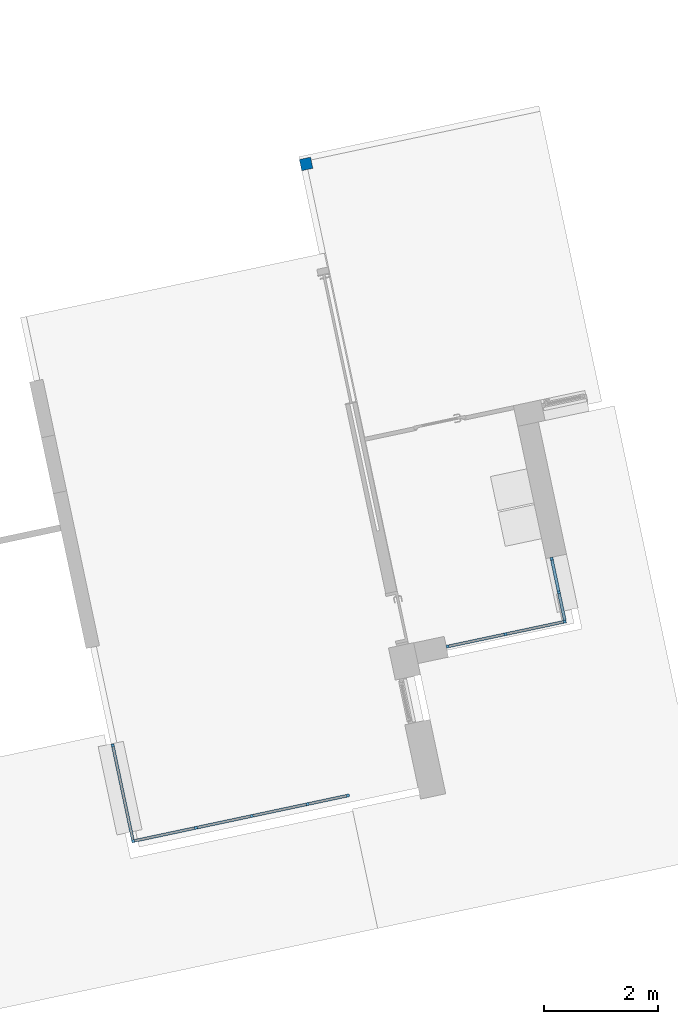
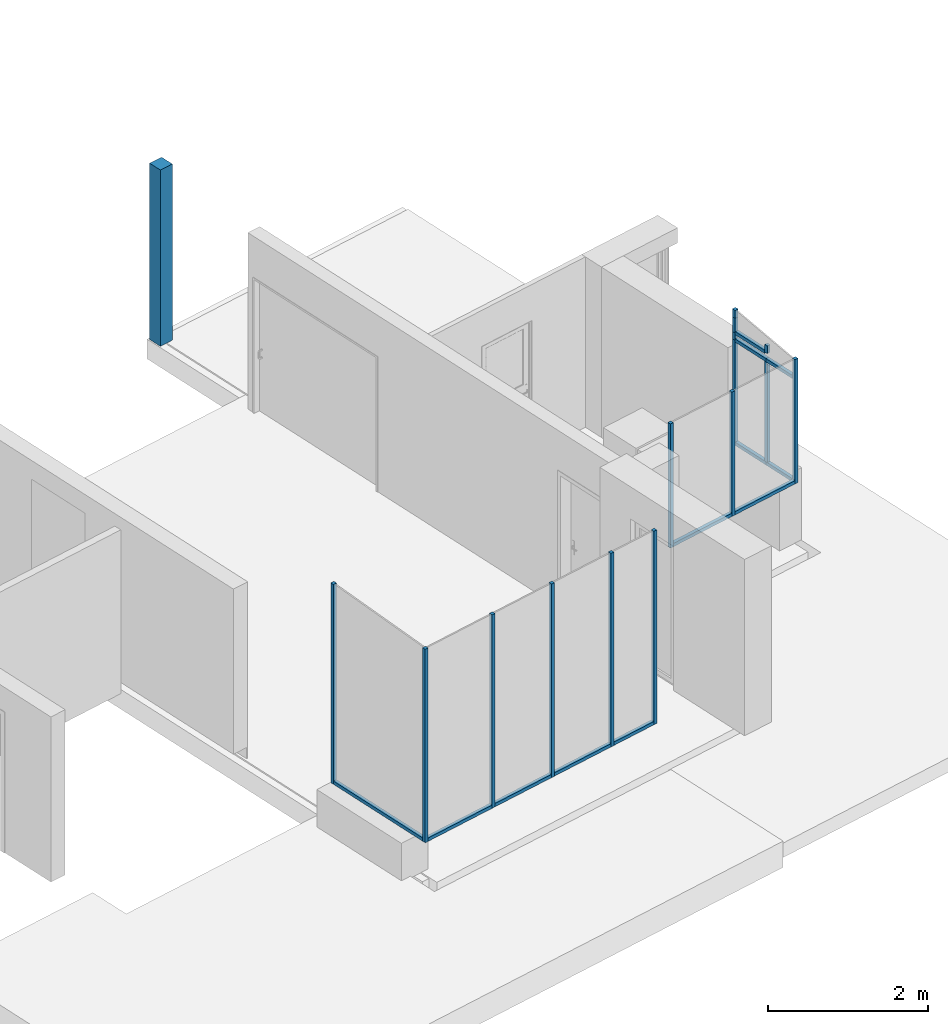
# One storey, part 1 of 17: 26 members, 1 column, 4 elements without a shape of their own.
"""IFC2X3 building model written with IfcOpenShell, lengths in centimetres."""

import ifcopenshell
import ifcopenshell.guid

model = None  # the IFC model being written
_history = None  # IfcOwnerHistory: only IFC2X3 demands one
_inside = {}  # id of a spatial element -> (the spatial element, [elements in it])
_under = {}  # id of a project, library or spatial element -> (it, [spatial elements below it])
_declared = {}  # id of a project -> (the project, [libraries it declares])
_typed = {}  # id of a type object -> (the type object, [elements of that type])
_made_of = {}  # id of a material, layer set ... -> (it, [elements and type objects made of it])


def new_model(schema):
    """Start an empty IFC model of exactly this schema.

    Asked for "IFC4X3", IfcOpenShell would pick the latest addendum, in which some entities
    have other attributes; the version numbers below select the first issue.
    IFC2X3 requires an IfcOwnerHistory on every rooted entity: one is made here for all.
    """
    global model, _history
    if schema == "IFC4X3":
        model = ifcopenshell.file(schema_version=(4, 3, 0, 0))
    else:
        model = ifcopenshell.file(schema=schema)
    _inside.clear()
    _under.clear()
    _declared.clear()
    _typed.clear()
    _made_of.clear()
    _history = None
    if model.schema == "IFC2X3":
        org = make("IfcOrganization", Name="unknown")
        user = make(
            "IfcPersonAndOrganization",
            ThePerson=make("IfcPerson", FamilyName="unknown"),
            TheOrganization=org,
        )
        app = make(
            "IfcApplication",
            ApplicationDeveloper=org,
            Version="unknown",
            ApplicationFullName="unknown",
            ApplicationIdentifier="unknown",
        )
        _history = make(
            "IfcOwnerHistory",
            OwningUser=user,
            OwningApplication=app,
            ChangeAction="ADDED",
            CreationDate=0,
        )
    return model


def make(cls, **values):
    """One entity of the class cls with the attributes given. An attribute that is None is left unset."""
    return model.create_entity(
        cls, **{name: value for name, value in values.items() if value is not None}
    )


def entity(cls, *values):
    """Any entity or typed value of the class cls, its attributes in the order of the schema. None: left unset."""
    e = model.create_entity(cls)
    for i, value in enumerate(values):
        if value is not None:
            e[i] = value
    return e


def rooted(cls, **values):
    """An entity with a GlobalId (a new one), such as an element, a storey or a relation."""
    return make(cls, GlobalId=ifcopenshell.guid.new(), OwnerHistory=_history, **values)


def si_unit(unit_type, name, prefix=None):
    """IfcSIUnit, for example si_unit("LENGTHUNIT", "METRE", prefix="MILLI")."""
    return make("IfcSIUnit", UnitType=unit_type, Prefix=prefix, Name=name)


def converted_unit(unit_type, name, factor, base, dimensions=None, offset=None):
    """IfcConversionBasedUnit, such as the inch: factor (a typed value) times the base unit."""
    return make(
        "IfcConversionBasedUnit"
        if offset is None
        else "IfcConversionBasedUnitWithOffset",
        ConversionOffset=offset,
        Dimensions=None
        if dimensions is None
        else entity("IfcDimensionalExponents", *dimensions),
        UnitType=unit_type,
        Name=name,
        ConversionFactor=make(
            "IfcMeasureWithUnit", ValueComponent=factor, UnitComponent=base
        ),
    )


def derived_unit(unit_type, elements):
    """IfcDerivedUnit: a product of units, each with its exponent."""
    return make(
        "IfcDerivedUnit",
        Elements=[
            make("IfcDerivedUnitElement", Unit=unit, Exponent=power)
            for unit, power in elements
        ],
        UnitType=unit_type,
    )


def assignment(units):
    """IfcUnitAssignment: the units of a project."""
    return None if units is None else make("IfcUnitAssignment", Units=units)


def point(xyz):
    """IfcCartesianPoint."""
    return None if xyz is None else make("IfcCartesianPoint", Coordinates=xyz)


def direction(xyz):
    """IfcDirection."""
    return None if xyz is None else make("IfcDirection", DirectionRatios=xyz)


def frame(location, z_axis=None, x_axis=None):
    """IfcAxis2Placement3D, a coordinate frame: its origin and axes. An axis left out is left unset."""
    return make(
        "IfcAxis2Placement3D",
        Location=point(location),
        Axis=direction(z_axis),
        RefDirection=direction(x_axis),
    )


def frame_2d(location, x_axis=None):
    """IfcAxis2Placement2D, a coordinate frame in the plane: its origin and x axis."""
    return make(
        "IfcAxis2Placement2D", Location=point(location), RefDirection=direction(x_axis)
    )


def origin():
    """The frame at (0, 0, 0) with its axes left unset."""
    return frame((0.0, 0.0, 0.0))


def origin_2d_with_axis():
    """The frame at (0, 0) in the plane with the x axis (1, 0) written out."""
    return frame_2d((0.0, 0.0), x_axis=(1.0, 0.0))


def place(relative_to, where):
    """IfcLocalPlacement: puts the frame where relative to a parent placement (None: the world)."""
    return make(
        "IfcLocalPlacement", PlacementRelTo=relative_to, RelativePlacement=where
    )


def context(
    kind, dimensions, precision=None, world=None, true_north=None, identifier=None
):
    """IfcGeometricRepresentationContext, for example the 3D "Model" context."""
    return make(
        "IfcGeometricRepresentationContext",
        ContextIdentifier=identifier,
        ContextType=kind,
        CoordinateSpaceDimension=dimensions,
        Precision=precision,
        WorldCoordinateSystem=world,
        TrueNorth=true_north,
    )


def subcontext(parent, identifier, kind, view, scale=None):
    """IfcGeometricRepresentationSubContext, for example "Body" below "Model"."""
    return make(
        "IfcGeometricRepresentationSubContext",
        ContextIdentifier=identifier,
        ContextType=kind,
        ParentContext=parent,
        TargetScale=scale,
        TargetView=view,
    )


def project(units=None, contexts=None):
    """IfcProject with its units and contexts."""
    return rooted(
        "IfcProject",
        Name="project",
        RepresentationContexts=contexts,
        UnitsInContext=assignment(units),
    )


def spatial(cls, under=None, at=None, **own):
    """A site, building, storey or space (cls), placed at a placement, below another one or the project."""
    s = rooted(cls, ObjectPlacement=at, **own)
    if under is not None:
        _under.setdefault(under.id(), (under, []))[1].append(s)
    return s


def profile(cls, at=None, kind="AREA", **sizes):
    """A parametric profile (cls). Its sizes go by their IFC names, for example OverallWidth=200.0."""
    return make(cls, ProfileType=kind, Position=at, **sizes)


def rectangle(**sizes):
    """IfcRectangleProfileDef."""
    return profile("IfcRectangleProfileDef", **sizes)


def extrude(swept, where, along, depth):
    """IfcExtrudedAreaSolid: the profile swept, set in the frame where, extruded along a direction by depth."""
    return make(
        "IfcExtrudedAreaSolid",
        SweptArea=swept,
        Position=where,
        ExtrudedDirection=direction(along),
        Depth=depth,
    )


def shape(context_of_items, identifier, shape_type, items):
    """IfcShapeRepresentation: the items that make up one representation, for example the "Body"."""
    return make(
        "IfcShapeRepresentation",
        ContextOfItems=context_of_items,
        RepresentationIdentifier=identifier,
        RepresentationType=shape_type,
        Items=items,
    )


def source(mapping_origin, context_of_items, identifier, shape_type, items):
    """IfcRepresentationMap: a shape defined once, which mapped items show again and again."""
    return make(
        "IfcRepresentationMap",
        MappingOrigin=mapping_origin,
        MappedRepresentation=shape(context_of_items, identifier, shape_type, items),
    )


def transform(
    local_origin,
    x_axis=None,
    y_axis=None,
    z_axis=None,
    scale=None,
    scale2=None,
    scale3=None,
    uniform=True,
):
    """IfcCartesianTransformationOperator3D, or its non-uniform kind. x_axis, y_axis, z_axis: its Axis1, 2, 3."""
    if uniform:
        return make(
            "IfcCartesianTransformationOperator3D",
            Axis1=direction(x_axis),
            Axis2=direction(y_axis),
            LocalOrigin=point(local_origin),
            Scale=scale,
            Axis3=direction(z_axis),
        )
    return make(
        "IfcCartesianTransformationOperator3DnonUniform",
        Axis1=direction(x_axis),
        Axis2=direction(y_axis),
        LocalOrigin=point(local_origin),
        Scale=scale,
        Axis3=direction(z_axis),
        Scale2=scale2,
        Scale3=scale3,
    )


def mapped(mapping_source, mapping_target):
    """IfcMappedItem: shows the shape of a source again, moved by a transform."""
    return make(
        "IfcMappedItem", MappingSource=mapping_source, MappingTarget=mapping_target
    )


def material(Name=None, Category=None):
    """IfcMaterial."""
    return make("IfcMaterial", Name=Name, Category=Category)


def made_of(thing, what):
    """Note that an element or type object is made of a material, layer set ...; save() writes the relation."""
    if what is not None:
        _made_of.setdefault(what.id(), (what, []))[1].append(thing)
    return thing


def type_object(cls, material=None, **own):
    """A type object (cls), such as IfcWallType, which elements share."""
    return made_of(rooted(cls, **own), material)


def type_shapes(of_type, sources):
    """Give a type object the sources (RepresentationMaps) that its elements show as mapped items."""
    of_type.RepresentationMaps = sources


def element(
    cls,
    number,
    at=None,
    inside=None,
    cuts=None,
    type_object=None,
    material=None,
    context=None,
    identifier="Body",
    shape_type=None,
    held_by="IfcProductDefinitionShape",
    body=None,
    shapes=None,
    **own,
):
    """One element of the class cls, such as IfcWall. Its Tag is "e" and its number.

    at: its placement. inside: the storey or other place that contains it. cuts: it is an
    opening in that element (IfcRelVoidsElement). A single representation is given by context,
    identifier, shape_type and body (its items); several are given by shapes. held_by: the class
    of the entity that holds the representations. save() writes the other relations.
    """
    e = rooted(cls, Tag="e%d" % number, ObjectPlacement=at, **own)
    if body is not None:
        shapes = [shape(context, identifier, shape_type, body)]
    if shapes is not None:
        e.Representation = make(held_by, Representations=shapes)
    if inside is not None:
        _inside.setdefault(inside.id(), (inside, []))[1].append(e)
    if cuts is not None:
        rooted(
            "IfcRelVoidsElement", RelatingBuildingElement=cuts, RelatedOpeningElement=e
        )
    if type_object is not None:
        _typed.setdefault(type_object.id(), (type_object, []))[1].append(e)
    return made_of(e, material)


def aggregate(whole, parts):
    """IfcRelAggregates: a whole, such as a stair, and the parts it consists of."""
    return rooted("IfcRelAggregates", RelatingObject=whole, RelatedObjects=parts)


def save(model, path):
    """Write the relations noted so far, then the file.

    IfcRelAggregates (storeys below a building ...), IfcRelContainedInSpatialStructure (elements
    in a storey), IfcRelDefinesByType, IfcRelAssociatesMaterial and IfcRelDeclares: one each for
    every whole, place, type object, material and project.
    """
    for whole, parts in _under.values():
        aggregate(whole, parts)
    for where, things in _inside.values():
        rooted(
            "IfcRelContainedInSpatialStructure",
            RelatedElements=things,
            RelatingStructure=where,
        )
    for kind, things in _typed.values():
        rooted("IfcRelDefinesByType", RelatedObjects=things, RelatingType=kind)
    for what, things in _made_of.values():
        rooted("IfcRelAssociatesMaterial", RelatedObjects=things, RelatingMaterial=what)
    for by, libraries in _declared.values():
        rooted("IfcRelDeclares", RelatingContext=by, RelatedDefinitions=libraries)
    model.write(path)


model = new_model("IFC2X3")

# Units and contexts
model_context = context("Model", 3, precision=0.001, world=origin(), true_north=direction((6.12303176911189e-17, 1.0)))
body_context = subcontext(model_context, "Body", "Model", "MODEL_VIEW")
ifc_project = project(units=[si_unit("LENGTHUNIT", "METRE", prefix="CENTI"), si_unit("AREAUNIT", "SQUARE_METRE"), si_unit("VOLUMEUNIT", "CUBIC_METRE"), converted_unit("PLANEANGLEUNIT", "DEGREE", entity("IfcRatioMeasure", 0.0174532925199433), si_unit("PLANEANGLEUNIT", "RADIAN"), dimensions=[0, 0, 0, 0, 0, 0, 0]), si_unit("MASSUNIT", "GRAM", prefix="KILO"), derived_unit("MASSDENSITYUNIT", [(si_unit("MASSUNIT", "GRAM", prefix="KILO"), 1), (si_unit("LENGTHUNIT", "METRE"), -3)]), derived_unit("IONCONCENTRATIONUNIT", [(si_unit("MASSUNIT", "GRAM", prefix="KILO"), 1), (si_unit("LENGTHUNIT", "METRE"), -3)]), derived_unit("MOMENTOFINERTIAUNIT", [(si_unit("LENGTHUNIT", "METRE"), 4)]), si_unit("TIMEUNIT", "SECOND"), si_unit("FREQUENCYUNIT", "HERTZ"), si_unit("THERMODYNAMICTEMPERATUREUNIT", "DEGREE_CELSIUS"), derived_unit("THERMALTRANSMITTANCEUNIT", [(si_unit("MASSUNIT", "GRAM", prefix="KILO"), 1), (si_unit("THERMODYNAMICTEMPERATUREUNIT", "KELVIN"), -1), (si_unit("TIMEUNIT", "SECOND"), -3)]), derived_unit("THERMALCONDUCTANCEUNIT", [(si_unit("MASSUNIT", "GRAM", prefix="KILO"), 1), (si_unit("THERMODYNAMICTEMPERATUREUNIT", "KELVIN"), -1), (si_unit("TIMEUNIT", "SECOND"), -3), (si_unit("LENGTHUNIT", "METRE"), 1)]), derived_unit("VOLUMETRICFLOWRATEUNIT", [(si_unit("LENGTHUNIT", "METRE"), 3), (si_unit("TIMEUNIT", "SECOND"), -1)]), derived_unit("MASSFLOWRATEUNIT", [(si_unit("MASSUNIT", "GRAM", prefix="KILO"), 1), (si_unit("TIMEUNIT", "SECOND"), -1)]), derived_unit("ROTATIONALFREQUENCYUNIT", [(si_unit("TIMEUNIT", "SECOND"), -1)]), si_unit("ELECTRICCURRENTUNIT", "AMPERE"), si_unit("ELECTRICVOLTAGEUNIT", "VOLT"), si_unit("POWERUNIT", "WATT"), si_unit("FORCEUNIT", "NEWTON", prefix="KILO"), si_unit("ILLUMINANCEUNIT", "LUX"), si_unit("LUMINOUSFLUXUNIT", "LUMEN"), si_unit("LUMINOUSINTENSITYUNIT", "CANDELA"), derived_unit("USERDEFINED", [(si_unit("MASSUNIT", "GRAM", prefix="KILO"), -1), (si_unit("LENGTHUNIT", "METRE"), -2), (si_unit("TIMEUNIT", "SECOND"), 3), (si_unit("LUMINOUSFLUXUNIT", "LUMEN"), 1)]), derived_unit("USERDEFINED", [(si_unit("MASSUNIT", "GRAM", prefix="KILO"), 1), (si_unit("TIMEUNIT", "SECOND"), -3), (si_unit("LENGTHUNIT", "METRE"), 3), (si_unit("ELECTRICCURRENTUNIT", "AMPERE"), -2)]), derived_unit("SOUNDPOWERUNIT", [(si_unit("MASSUNIT", "GRAM", prefix="KILO"), 1), (si_unit("TIMEUNIT", "SECOND"), -3), (si_unit("LENGTHUNIT", "METRE"), 2)]), derived_unit("SOUNDPRESSUREUNIT", [(si_unit("MASSUNIT", "GRAM", prefix="KILO"), 1), (si_unit("LENGTHUNIT", "METRE"), -1), (si_unit("TIMEUNIT", "SECOND"), -2)]), derived_unit("LINEARVELOCITYUNIT", [(si_unit("LENGTHUNIT", "METRE"), 1), (si_unit("TIMEUNIT", "SECOND"), -1)]), si_unit("PRESSUREUNIT", "PASCAL"), derived_unit("USERDEFINED", [(si_unit("MASSUNIT", "GRAM", prefix="KILO"), 1), (si_unit("LENGTHUNIT", "METRE"), -2), (si_unit("TIMEUNIT", "SECOND"), -2)]), derived_unit("LINEARFORCEUNIT", [(si_unit("MASSUNIT", "GRAM", prefix="KILO"), 1), (si_unit("TIMEUNIT", "SECOND"), -2)]), derived_unit("PLANARFORCEUNIT", [(si_unit("MASSUNIT", "GRAM", prefix="KILO"), 1), (si_unit("LENGTHUNIT", "METRE"), -1), (si_unit("TIMEUNIT", "SECOND"), -2)]), derived_unit("SPECIFICHEATCAPACITYUNIT", [(si_unit("THERMODYNAMICTEMPERATUREUNIT", "KELVIN"), -1), (si_unit("LENGTHUNIT", "METRE"), 2), (si_unit("TIMEUNIT", "SECOND"), -2)]), derived_unit("HEATINGVALUEUNIT", [(si_unit("LENGTHUNIT", "METRE"), 2), (si_unit("TIMEUNIT", "SECOND"), -2)]), derived_unit("VAPORPERMEABILITYUNIT", [(si_unit("LENGTHUNIT", "METRE"), -1), (si_unit("TIMEUNIT", "SECOND"), 1)]), derived_unit("DYNAMICVISCOSITYUNIT", [(si_unit("MASSUNIT", "GRAM", prefix="KILO"), 1), (si_unit("TIMEUNIT", "SECOND"), -1), (si_unit("LENGTHUNIT", "METRE"), -1)]), derived_unit("THERMALEXPANSIONCOEFFICIENTUNIT", [(si_unit("THERMODYNAMICTEMPERATUREUNIT", "KELVIN"), -1)]), derived_unit("MODULUSOFELASTICITYUNIT", [(si_unit("MASSUNIT", "GRAM", prefix="KILO"), 1), (si_unit("LENGTHUNIT", "METRE"), -1), (si_unit("TIMEUNIT", "SECOND"), -2)]), derived_unit("ISOTHERMALMOISTURECAPACITYUNIT", [(si_unit("LENGTHUNIT", "METRE"), 3), (si_unit("MASSUNIT", "GRAM", prefix="KILO"), -1)]), derived_unit("MOISTUREDIFFUSIVITYUNIT", [(si_unit("TIMEUNIT", "SECOND"), -1), (si_unit("LENGTHUNIT", "METRE"), 2)])], contexts=[model_context])

# Site, building, storey
site_placement = place(None, frame((14083.8920177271, -6853.25409548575, 6900.0), z_axis=(0.0, 0.0, 1.0), x_axis=(0.978188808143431, 0.207717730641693, 0.0)))
site = spatial("IfcSite", under=ifc_project, at=site_placement, Name="Surface", CompositionType="ELEMENT")
building_placement = place(site_placement, origin())
building = spatial("IfcBuilding", under=site, at=building_placement, CompositionType="ELEMENT")
storey_placement = place(building_placement, origin())
storey = spatial("IfcBuildingStorey", under=building, at=storey_placement, Name="_Rez de chaussée Séjour", CompositionType="ELEMENT", Elevation=2.07727662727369e-10)

# Column
ifc_material = material(Name="__ METAL_gris foncé (menuiseries acier)______________________TEST")
column_type = type_object("IfcColumnType", Name="Poteau alu - Carré:20x20", PredefinedType="COLUMN", material=ifc_material)
shared_shape_1 = source(origin(), body_context, "Body", "SweptSolid", [
    extrude(rectangle(XDim=19.9999999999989, YDim=19.9999999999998, at=frame_2d((0.0, 8.65973959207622e-13), x_axis=(1.0, 0.0))), frame((-6254.81321908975, 15687.1673447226, 0.0), z_axis=(0.0, 0.0, 1.0), x_axis=(0.0, -1.0, 0.0)), (0.0, 0.0, 1.0), 269.0),
])
type_shapes(column_type, [shared_shape_1])
column_placement = place(storey_placement, origin())
element("IfcColumn", 1, at=column_placement, inside=storey, type_object=column_type, material=ifc_material, Name="Poteau alu - Carré:20x20", ObjectType="Poteau alu - Carré:20x20", context=body_context, shape_type="MappedRepresentation", body=[
    mapped(shared_shape_1, transform((0.0, 0.0, 0.0), scale=1.0)),
])

# Curtain wall, members
curtain_wall_type = type_object("IfcCurtainWallType", Name="Mur-rideau:*Mur-rideau", PredefinedType="NOTDEFINED")
curtain_wall_1_placement = place(storey_placement, origin())
curtain_wall_1 = element("IfcCurtainWall", 2, at=curtain_wall_1_placement, inside=storey, type_object=curtain_wall_type, Name="Mur-rideau:*Mur-rideau", ObjectType="Mur-rideau:*Mur-rideau")
member_type_1 = type_object("IfcMemberType", Name="Meneau rectangulaire:Métal 5x5 cm_centré_milieu", PredefinedType="MULLION", material=ifc_material)
shared_shape_2 = source(origin(), body_context, "Body", "SweptSolid", [
    extrude(rectangle(XDim=5.0, YDim=5.0, at=origin_2d_with_axis()), frame((0.0, 0.0, -295.141211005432), z_axis=(0.0, 0.0, 1.0), x_axis=(0.0, -1.0, 0.0)), (0.0, 0.0, 1.0), 295.141211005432),
])
type_shapes(member_type_1, [shared_shape_2])
member_1_placement = place(curtain_wall_1_placement, frame((-6684.95514329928, 14590.1324526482, 60.0), z_axis=(0.0, 0.0, -1.0), x_axis=(1.0, 0.0, 0.0)))
member_1 = element("IfcMember", 3, at=member_1_placement, type_object=member_type_1, material=ifc_material, Name="Meneau rectangulaire:Métal 5x5 cm_centré_milieu", ObjectType="Meneau rectangulaire:Métal 5x5 cm_centré_milieu", context=body_context, shape_type="MappedRepresentation", body=[
    mapped(shared_shape_2, transform((0.0, 0.0, 0.0), scale=1.0)),
])
member_2_placement = place(curtain_wall_1_placement, frame((-6584.95514329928, 14590.1324526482, 60.0), z_axis=(0.0, 0.0, -1.0), x_axis=(1.0, 0.0, 0.0)))
member_2 = element("IfcMember", 4, at=member_2_placement, type_object=member_type_1, material=ifc_material, Name="Meneau rectangulaire:Métal 5x5 cm_centré_milieu", ObjectType="Meneau rectangulaire:Métal 5x5 cm_centré_milieu", context=body_context, shape_type="MappedRepresentation", body=[
    mapped(shared_shape_2, transform((0.0, 0.0, 0.0), scale=1.0)),
])
member_3_placement = place(curtain_wall_1_placement, frame((-6484.95514329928, 14590.1324526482, 60.0), z_axis=(0.0, 0.0, -1.0), x_axis=(1.0, 0.0, 0.0)))
member_3 = element("IfcMember", 5, at=member_3_placement, type_object=member_type_1, material=ifc_material, Name="Meneau rectangulaire:Métal 5x5 cm_centré_milieu", ObjectType="Meneau rectangulaire:Métal 5x5 cm_centré_milieu", context=body_context, shape_type="MappedRepresentation", body=[
    mapped(shared_shape_2, transform((0.0, 0.0, 0.0), scale=1.0)),
])
member_type_2 = type_object("IfcMemberType", Name="Meneau rectangulaire:Métal 5x5 cm_centré_milieu", PredefinedType="MULLION", material=ifc_material)
shared_shape_3 = source(origin(), body_context, "Body", "SweptSolid", [
    extrude(rectangle(XDim=5.0, YDim=5.0, at=origin_2d_with_axis()), frame((-2.5, 0.0, -295.141211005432), z_axis=(0.0, 0.0, 1.0), x_axis=(0.0, -1.0, 0.0)), (0.0, 0.0, 1.0), 295.141211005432),
])
type_shapes(member_type_2, [shared_shape_3])
member_4_placement = place(curtain_wall_1_placement, frame((-6410.31321908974, 14590.1324526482, 60.0), z_axis=(0.0, 0.0, -1.0), x_axis=(1.0, 0.0, 0.0)))
member_4 = element("IfcMember", 6, at=member_4_placement, type_object=member_type_2, material=ifc_material, Name="Meneau rectangulaire:Métal 5x5 cm_centré_milieu", ObjectType="Meneau rectangulaire:Métal 5x5 cm_centré_milieu", context=body_context, shape_type="MappedRepresentation", body=[
    mapped(shared_shape_3, transform((0.0, 0.0, 0.0), scale=1.0)),
])
member_type_3 = type_object("IfcMemberType", Name="Meneau rectangulaire:Métal 5x5 cm_centré_milieu", PredefinedType="MULLION", material=ifc_material)
shared_shape_4 = source(origin(), body_context, "Body", "SweptSolid", [
    extrude(rectangle(XDim=5.0, YDim=5.0, at=origin_2d_with_axis()), frame((-2.5, 0.0, -295.141211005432), z_axis=(0.0, 0.0, 1.0), x_axis=(0.0, -1.0, 0.0)), (0.0, 0.0, 1.0), 295.141211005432),
])
type_shapes(member_type_3, [shared_shape_4])
member_5_placement = place(curtain_wall_1_placement, frame((-6799.9551432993, 14590.1324526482, 355.141211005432), z_axis=(0.0, 0.0, 1.0), x_axis=(-1.0, 0.0, 0.0)))
member_5 = element("IfcMember", 7, at=member_5_placement, type_object=member_type_3, material=ifc_material, Name="Meneau rectangulaire:Métal 5x5 cm_centré_milieu", ObjectType="Meneau rectangulaire:Métal 5x5 cm_centré_milieu", context=body_context, shape_type="MappedRepresentation", body=[
    mapped(shared_shape_4, transform((0.0, 0.0, 0.0), scale=1.0)),
])
member_type_4 = type_object("IfcMemberType", Name="Meneau rectangulaire:Métal 5x5 cm_centré_milieu", PredefinedType="MULLION", material=ifc_material)
shared_shape_5 = source(origin(), body_context, "Body", "SweptSolid", [
    extrude(rectangle(XDim=5.0, YDim=5.0, at=origin_2d_with_axis()), frame((-2.5, 0.0, -67.1419242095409), z_axis=(0.0, 0.0, 1.0), x_axis=(0.0, -1.0, 0.0)), (0.0, 0.0, 1.0), 67.1419242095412),
])
type_shapes(member_type_4, [shared_shape_5])
member_6_placement = place(curtain_wall_1_placement, frame((-6482.45514329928, 14590.1324526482, 60.0), z_axis=(-1.0, 0.0, 0.0), x_axis=(0.0, 0.0, -1.0)))
member_6 = element("IfcMember", 8, at=member_6_placement, type_object=member_type_4, material=ifc_material, Name="Meneau rectangulaire:Métal 5x5 cm_centré_milieu", ObjectType="Meneau rectangulaire:Métal 5x5 cm_centré_milieu", context=body_context, shape_type="MappedRepresentation", body=[
    mapped(shared_shape_5, transform((0.0, 0.0, 0.0), scale=1.0)),
])
member_type_5 = type_object("IfcMemberType", Name="Meneau rectangulaire:Métal 5x5 cm_centré_milieu", PredefinedType="MULLION", material=ifc_material)
shared_shape_6 = source(origin(), body_context, "Body", "SweptSolid", [
    extrude(rectangle(XDim=5.0, YDim=5.0, at=origin_2d_with_axis()), frame((-2.5, 0.0, -95.0), z_axis=(0.0, 0.0, 1.0), x_axis=(0.0, -1.0, 0.0)), (0.0, 0.0, 1.0), 95.0000000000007),
])
type_shapes(member_type_5, [shared_shape_6])
member_7_placement = place(curtain_wall_1_placement, frame((-6582.45514329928, 14590.1324526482, 60.0), z_axis=(-1.0, 0.0, 0.0), x_axis=(0.0, 0.0, -1.0)))
member_7 = element("IfcMember", 9, at=member_7_placement, type_object=member_type_5, material=ifc_material, Name="Meneau rectangulaire:Métal 5x5 cm_centré_milieu", ObjectType="Meneau rectangulaire:Métal 5x5 cm_centré_milieu", context=body_context, shape_type="MappedRepresentation", body=[
    mapped(shared_shape_6, transform((0.0, 0.0, 0.0), scale=1.0)),
])
member_8_placement = place(curtain_wall_1_placement, frame((-6682.45514329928, 14590.1324526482, 60.0), z_axis=(-1.0, 0.0, 0.0), x_axis=(0.0, 0.0, -1.0)))
member_8 = element("IfcMember", 10, at=member_8_placement, type_object=member_type_5, material=ifc_material, Name="Meneau rectangulaire:Métal 5x5 cm_centré_milieu", ObjectType="Meneau rectangulaire:Métal 5x5 cm_centré_milieu", context=body_context, shape_type="MappedRepresentation", body=[
    mapped(shared_shape_6, transform((0.0, 0.0, 0.0), scale=1.0)),
])
member_type_6 = type_object("IfcMemberType", Name="Meneau rectangulaire:Métal 5x5 cm_centré_milieu", PredefinedType="MULLION", material=ifc_material)
shared_shape_7 = source(origin(), body_context, "Body", "SweptSolid", [
    extrude(rectangle(XDim=5.0, YDim=5.0, at=origin_2d_with_axis()), frame((-2.5, 0.0, -107.500000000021), z_axis=(0.0, 0.0, 1.0), x_axis=(0.0, -1.0, 0.0)), (0.0, 0.0, 1.0), 107.500000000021),
])
type_shapes(member_type_6, [shared_shape_7])
member_9_placement = place(curtain_wall_1_placement, frame((-6794.9551432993, 14590.1324526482, 60.0), z_axis=(-1.0, 0.0, 0.0), x_axis=(0.0, 0.0, -1.0)))
member_9 = element("IfcMember", 11, at=member_9_placement, type_object=member_type_6, material=ifc_material, Name="Meneau rectangulaire:Métal 5x5 cm_centré_milieu", ObjectType="Meneau rectangulaire:Métal 5x5 cm_centré_milieu", context=body_context, shape_type="MappedRepresentation", body=[
    mapped(shared_shape_7, transform((0.0, 0.0, 0.0), scale=1.0)),
])
aggregate(curtain_wall_1, [member_1, member_2, member_3, member_4, member_5, member_6, member_7, member_8, member_9])

curtain_wall_2_placement = place(storey_placement, origin())
curtain_wall_2 = element("IfcCurtainWall", 12, at=curtain_wall_2_placement, inside=storey, type_object=curtain_wall_type, Name="Mur-rideau:*Mur-rideau", ObjectType="Mur-rideau:*Mur-rideau")
member_type_7 = type_object("IfcMemberType", Name="Meneau rectangulaire:Métal 5x5 cm_centré_milieu", PredefinedType="MULLION", material=ifc_material)
shared_shape_8 = source(origin(), body_context, "Body", "SweptSolid", [
    extrude(rectangle(XDim=5.0, YDim=5.0, at=origin_2d_with_axis()), frame((-2.5, 0.0, -189.508935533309), z_axis=(0.0, 0.0, 1.0), x_axis=(0.0, -1.0, 0.0)), (0.0, 0.0, 1.0), 189.508935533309),
])
type_shapes(member_type_7, [shared_shape_8])
member_10_placement = place(curtain_wall_2_placement, frame((-6190.31321908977, 14809.1673447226, 299.508935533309), z_axis=(0.0, 0.0, 1.0), x_axis=(-1.0, 0.0, 0.0)))
member_10 = element("IfcMember", 13, at=member_10_placement, type_object=member_type_7, material=ifc_material, Name="Meneau rectangulaire:Métal 5x5 cm_centré_milieu", ObjectType="Meneau rectangulaire:Métal 5x5 cm_centré_milieu", context=body_context, shape_type="MappedRepresentation", body=[
    mapped(shared_shape_8, transform((0.0, 0.0, 0.0), scale=1.0)),
])
member_type_8 = type_object("IfcMemberType", Name="Meneau rectangulaire:Métal 5x5 cm_centré_milieu", PredefinedType="MULLION", material=ifc_material)
shared_shape_9 = source(origin(), body_context, "Body", "SweptSolid", [
    extrude(rectangle(XDim=5.0, YDim=5.0, at=origin_2d_with_axis()), frame((-2.5, 0.0, -98.5000000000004), z_axis=(0.0, 0.0, 1.0), x_axis=(0.0, -1.0, 0.0)), (0.0, 0.0, 1.0), 98.5000000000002),
])
type_shapes(member_type_8, [shared_shape_9])
member_11_placement = place(curtain_wall_2_placement, frame((-6185.31321908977, 14809.1673447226, 110.0), z_axis=(-1.0, 0.0, 0.0), x_axis=(0.0, 0.0, -1.0)))
member_11 = element("IfcMember", 14, at=member_11_placement, type_object=member_type_8, material=ifc_material, Name="Meneau rectangulaire:Métal 5x5 cm_centré_milieu", ObjectType="Meneau rectangulaire:Métal 5x5 cm_centré_milieu", context=body_context, shape_type="MappedRepresentation", body=[
    mapped(shared_shape_9, transform((0.0, 0.0, 0.0), scale=1.0)),
])
member_type_9 = type_object("IfcMemberType", Name="Meneau rectangulaire:Métal 5x5 cm_centré_milieu", PredefinedType="MULLION", material=ifc_material)
shared_shape_10 = source(origin(), body_context, "Body", "SweptSolid", [
    extrude(rectangle(XDim=5.0, YDim=5.0, at=origin_2d_with_axis()), frame((-2.5, 0.0, -101.0), z_axis=(0.0, 0.0, 1.0), x_axis=(0.0, -1.0, 0.0)), (0.0, 0.0, 1.0), 101.00000000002),
])
type_shapes(member_type_9, [shared_shape_10])
member_12_placement = place(curtain_wall_2_placement, frame((-6081.81321908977, 14809.1673447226, 110.0), z_axis=(-1.0, 0.0, 0.0), x_axis=(0.0, 0.0, -1.0)))
member_12 = element("IfcMember", 15, at=member_12_placement, type_object=member_type_9, material=ifc_material, Name="Meneau rectangulaire:Métal 5x5 cm_centré_milieu", ObjectType="Meneau rectangulaire:Métal 5x5 cm_centré_milieu", context=body_context, shape_type="MappedRepresentation", body=[
    mapped(shared_shape_10, transform((0.0, 0.0, 0.0), scale=1.0)),
])
member_type_10 = type_object("IfcMemberType", Name="Meneau rectangulaire:Métal 5x5 cm_centré_milieu", PredefinedType="MULLION", material=ifc_material)
shared_shape_11 = source(origin(), body_context, "Body", "SweptSolid", [
    extrude(rectangle(XDim=5.0, YDim=5.0, at=origin_2d_with_axis()), frame((0.0, 0.0, -189.508935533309), z_axis=(0.0, 0.0, 1.0), x_axis=(0.0, -1.0, 0.0)), (0.0, 0.0, 1.0), 189.508935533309),
])
type_shapes(member_type_10, [shared_shape_11])
member_13_placement = place(curtain_wall_2_placement, frame((-6084.31321908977, 14809.1673447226, 110.0), z_axis=(0.0, 0.0, -1.0), x_axis=(1.0, 0.0, 0.0)))
member_13 = element("IfcMember", 16, at=member_13_placement, type_object=member_type_10, material=ifc_material, Name="Meneau rectangulaire:Métal 5x5 cm_centré_milieu", ObjectType="Meneau rectangulaire:Métal 5x5 cm_centré_milieu", context=body_context, shape_type="MappedRepresentation", body=[
    mapped(shared_shape_11, transform((0.0, 0.0, 0.0), scale=1.0)),
])
member_14_placement = place(curtain_wall_2_placement, frame((-5978.31321908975, 14809.1673447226, 110.0), z_axis=(0.0, 0.0, -1.0), x_axis=(1.0, 0.0, 0.0)))
member_14 = element("IfcMember", 17, at=member_14_placement, type_object=member_type_10, material=ifc_material, Name="Meneau rectangulaire:Métal 5x5 cm_centré_milieu", ObjectType="Meneau rectangulaire:Métal 5x5 cm_centré_milieu", context=body_context, shape_type="MappedRepresentation", body=[
    mapped(shared_shape_11, transform((0.0, 0.0, 0.0), scale=1.0)),
])
aggregate(curtain_wall_2, [member_10, member_11, member_12, member_13, member_14])

curtain_wall_3_placement = place(storey_placement, origin())
curtain_wall_3 = element("IfcCurtainWall", 18, at=curtain_wall_3_placement, inside=storey, type_object=curtain_wall_type, Name="Mur-rideau:*Mur-rideau", ObjectType="Mur-rideau:*Mur-rideau")
member_type_11 = type_object("IfcMemberType", Name="Meneau rectangulaire:Métal 5x5 cm_centré_milieu", PredefinedType="MULLION", material=ifc_material)
shared_shape_12 = source(origin(), body_context, "Body", "SweptSolid", [
    extrude(rectangle(XDim=5.0, YDim=5.0, at=origin_2d_with_axis()), frame((-2.5, 0.0, -50.0), z_axis=(0.0, 0.0, 1.0), x_axis=(0.0, -1.0, 0.0)), (0.0, 0.0, 1.0), 50.0000000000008),
])
type_shapes(member_type_11, [shared_shape_12])
member_15_placement = place(curtain_wall_3_placement, frame((-5977.81321908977, 14811.6673447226, 110.0), z_axis=(0.0, -1.0, 0.0), x_axis=(0.0, 0.0, -1.0)))
member_15 = element("IfcMember", 19, at=member_15_placement, type_object=member_type_11, material=ifc_material, Name="Meneau rectangulaire:Métal 5x5 cm_centré_milieu", ObjectType="Meneau rectangulaire:Métal 5x5 cm_centré_milieu", context=body_context, shape_type="MappedRepresentation", body=[
    mapped(shared_shape_12, transform((0.0, 0.0, 0.0), scale=1.0)),
])
member_type_12 = type_object("IfcMemberType", Name="Meneau rectangulaire:Métal 5x5 cm_centré_milieu", PredefinedType="MULLION", material=ifc_material)
shared_shape_13 = source(origin(), body_context, "Body", "SweptSolid", [
    extrude(rectangle(XDim=5.0, YDim=5.0, at=origin_2d_with_axis()), frame((-2.5, 0.0, -57.393124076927), z_axis=(0.0, 0.0, 1.0), x_axis=(0.0, -1.0, 0.0)), (0.0, 0.0, 1.0), 57.393124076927),
])
type_shapes(member_type_12, [shared_shape_13])
member_16_placement = place(curtain_wall_3_placement, frame((-5977.81321908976, 14861.6673447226, 110.0), z_axis=(0.0, -1.0, 0.0), x_axis=(0.0, 0.0, -1.0)))
member_16 = element("IfcMember", 20, at=member_16_placement, type_object=member_type_12, material=ifc_material, Name="Meneau rectangulaire:Métal 5x5 cm_centré_milieu", ObjectType="Meneau rectangulaire:Métal 5x5 cm_centré_milieu", context=body_context, shape_type="MappedRepresentation", body=[
    mapped(shared_shape_13, transform((0.0, 0.0, 0.0), scale=1.0)),
])
member_type_13 = type_object("IfcMemberType", Name="Meneau rectangulaire:Métal 5x5 cm_centré_milieu", PredefinedType="MULLION", material=ifc_material)
shared_shape_14 = source(origin(), body_context, "Body", "SweptSolid", [
    extrude(rectangle(XDim=5.0, YDim=5.0, at=origin_2d_with_axis()), frame((0.0, 0.0, -152.5), z_axis=(0.0, 0.0, 1.0), x_axis=(0.0, -1.0, 0.0)), (0.0, 0.0, 1.0), 152.5),
])
type_shapes(member_type_13, [shared_shape_14])
member_17_placement = place(curtain_wall_3_placement, frame((-5977.81321908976, 14861.6673447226, 115.0), z_axis=(0.0, 0.0, -1.0), x_axis=(0.0, 1.0, 0.0)))
member_17 = element("IfcMember", 21, at=member_17_placement, type_object=member_type_13, material=ifc_material, Name="Meneau rectangulaire:Métal 5x5 cm_centré_milieu", ObjectType="Meneau rectangulaire:Métal 5x5 cm_centré_milieu", context=body_context, shape_type="MappedRepresentation", body=[
    mapped(shared_shape_14, transform((0.0, 0.0, 0.0), scale=1.0)),
])
member_type_14 = type_object("IfcMemberType", Name="Meneau rectangulaire:Métal 5x5 cm_centré_milieu", PredefinedType="MULLION", material=ifc_material)
shared_shape_15 = source(origin(), body_context, "Body", "SweptSolid", [
    extrude(rectangle(XDim=5.0, YDim=5.0, at=origin_2d_with_axis()), frame((-2.5, 0.0, -160.0), z_axis=(0.0, 0.0, 1.0), x_axis=(0.0, -1.0, 0.0)), (0.0, 0.0, 1.0), 160.0),
])
type_shapes(member_type_14, [shared_shape_15])
member_18_placement = place(curtain_wall_3_placement, frame((-5977.81321908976, 14924.0604687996, 110.0), z_axis=(0.0, 0.0, -1.0), x_axis=(0.0, 1.0, 0.0)))
member_18 = element("IfcMember", 22, at=member_18_placement, type_object=member_type_14, material=ifc_material, Name="Meneau rectangulaire:Métal 5x5 cm_centré_milieu", ObjectType="Meneau rectangulaire:Métal 5x5 cm_centré_milieu", context=body_context, shape_type="MappedRepresentation", body=[
    mapped(shared_shape_15, transform((0.0, 0.0, 0.0), scale=1.0)),
])
member_type_15 = type_object("IfcMemberType", Name="Meneau rectangulaire:Métal 5x5 cm_centré_milieu", PredefinedType="MULLION", material=ifc_material)
shared_shape_16 = source(origin(), body_context, "Body", "SweptSolid", [
    extrude(rectangle(XDim=5.0, YDim=5.0, at=origin_2d_with_axis()), frame((-2.5, 0.0, -45.9571369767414), z_axis=(0.0, 0.0, 1.0), x_axis=(0.0, -1.0, 0.0)), (0.0, 0.0, 1.0), 45.9571369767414),
])
type_shapes(member_type_15, [shared_shape_16])
member_19_placement = place(curtain_wall_3_placement, frame((-5977.81321908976, 14924.0604687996, 270.0), z_axis=(0.0, 0.0, -1.0), x_axis=(0.0, 1.0, 0.0)))
member_19 = element("IfcMember", 23, at=member_19_placement, type_object=member_type_15, material=ifc_material, Name="Meneau rectangulaire:Métal 5x5 cm_centré_milieu", ObjectType="Meneau rectangulaire:Métal 5x5 cm_centré_milieu", context=body_context, shape_type="MappedRepresentation", body=[
    mapped(shared_shape_16, transform((0.0, 0.0, 0.0), scale=1.0)),
])
member_type_16 = type_object("IfcMemberType", Name="Meneau rectangulaire:Métal 5x5 cm_centré_milieu", PredefinedType="MULLION", material=ifc_material)
shared_shape_17 = source(origin(), body_context, "Body", "SweptSolid", [
    extrude(rectangle(XDim=5.0, YDim=5.0, at=origin_2d_with_axis()), frame((0.0, 0.0, -11.3772257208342), z_axis=(0.0, 0.0, 1.0), x_axis=(0.0, -1.0, 0.0)), (0.0, 0.0, 1.0), 11.3772257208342),
])
type_shapes(member_type_16, [shared_shape_17])
member_20_placement = place(curtain_wall_3_placement, frame((-5977.81321908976, 14861.6673447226, 281.377225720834), z_axis=(0.0, 0.0, -1.0), x_axis=(0.0, 1.0, 0.0)))
member_20 = element("IfcMember", 24, at=member_20_placement, type_object=member_type_16, material=ifc_material, Name="Meneau rectangulaire:Métal 5x5 cm_centré_milieu", ObjectType="Meneau rectangulaire:Métal 5x5 cm_centré_milieu", context=body_context, shape_type="MappedRepresentation", body=[
    mapped(shared_shape_17, transform((0.0, 0.0, 0.0), scale=1.0)),
])
member_type_17 = type_object("IfcMemberType", Name="Meneau rectangulaire:Métal 5x5 cm_centré_milieu", PredefinedType="MULLION", material=ifc_material)
shared_shape_18 = source(origin(), body_context, "Body", "SweptSolid", [
    extrude(rectangle(XDim=5.0, YDim=5.0, at=origin_2d_with_axis()), frame((-2.5, 0.0, -22.4307109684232), z_axis=(0.0, 0.0, 1.0), x_axis=(0.0, -1.0, 0.0)), (0.0, 0.0, 1.0), 22.4307109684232),
])
type_shapes(member_type_17, [shared_shape_18])
member_21_placement = place(curtain_wall_3_placement, frame((-5977.81321908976, 14924.0604687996, 281.377225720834), z_axis=(0.0, 0.0, -1.0), x_axis=(0.0, 1.0, 0.0)))
member_21 = element("IfcMember", 25, at=member_21_placement, type_object=member_type_17, material=ifc_material, Name="Meneau rectangulaire:Métal 5x5 cm_centré_milieu", ObjectType="Meneau rectangulaire:Métal 5x5 cm_centré_milieu", context=body_context, shape_type="MappedRepresentation", body=[
    mapped(shared_shape_18, transform((0.0, 0.0, 0.0), scale=1.0)),
])
member_type_18 = type_object("IfcMemberType", Name="Meneau rectangulaire:Métal 5x5 cm_centré_milieu", PredefinedType="MULLION", material=ifc_material)
shared_shape_19 = source(origin(), body_context, "Body", "SweptSolid", [
    extrude(rectangle(XDim=5.0, YDim=5.0, at=origin_2d_with_axis()), frame((0.0, 0.0, -54.8931240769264), z_axis=(0.0, 0.0, 1.0), x_axis=(0.0, -1.0, 0.0)), (0.0, 0.0, 1.0), 54.893124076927),
])
type_shapes(member_type_18, [shared_shape_19])
member_22_placement = place(curtain_wall_3_placement, frame((-5977.81321908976, 14919.0604687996, 281.377225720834), z_axis=(0.0, 1.0, 0.0), x_axis=(0.0, 0.0, 1.0)))
member_22 = element("IfcMember", 26, at=member_22_placement, type_object=member_type_18, material=ifc_material, Name="Meneau rectangulaire:Métal 5x5 cm_centré_milieu", ObjectType="Meneau rectangulaire:Métal 5x5 cm_centré_milieu", context=body_context, shape_type="MappedRepresentation", body=[
    mapped(shared_shape_19, transform((0.0, 0.0, 0.0), scale=1.0)),
])
member_type_19 = type_object("IfcMemberType", Name="Meneau rectangulaire:Métal 5x5 cm_centré_milieu", PredefinedType="MULLION", material=ifc_material)
shared_shape_20 = source(origin(), body_context, "Body", "SweptSolid", [
    extrude(rectangle(XDim=5.0, YDim=5.0, at=origin_2d_with_axis()), frame((0.0, 0.0, -57.3931240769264), z_axis=(0.0, 0.0, 1.0), x_axis=(0.0, -1.0, 0.0)), (0.0, 0.0, 1.0), 57.393124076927),
])
type_shapes(member_type_19, [shared_shape_20])
member_23_placement = place(curtain_wall_3_placement, frame((-5977.81321908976, 14919.0604687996, 270.0), z_axis=(0.0, 1.0, 0.0), x_axis=(0.0, 0.0, 1.0)))
member_23 = element("IfcMember", 27, at=member_23_placement, type_object=member_type_19, material=ifc_material, Name="Meneau rectangulaire:Métal 5x5 cm_centré_milieu", ObjectType="Meneau rectangulaire:Métal 5x5 cm_centré_milieu", context=body_context, shape_type="MappedRepresentation", body=[
    mapped(shared_shape_20, transform((0.0, 0.0, 0.0), scale=1.0)),
])
member_type_20 = type_object("IfcMemberType", Name="Meneau rectangulaire:Métal 5x5 cm_centré_milieu", PredefinedType="MULLION", material=ifc_material)
shared_shape_21 = source(origin(), body_context, "Body", "SweptSolid", [
    extrude(rectangle(XDim=5.0, YDim=5.0, at=origin_2d_with_axis()), frame((0.0, 0.0, -50.0), z_axis=(0.0, 0.0, 1.0), x_axis=(0.0, -1.0, 0.0)), (0.0, 0.0, 1.0), 50.0000000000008),
])
type_shapes(member_type_20, [shared_shape_21])
member_24_placement = place(curtain_wall_3_placement, frame((-5977.81321908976, 14861.6673447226, 270.0), z_axis=(0.0, 1.0, 0.0), x_axis=(0.0, 0.0, 1.0)))
member_24 = element("IfcMember", 28, at=member_24_placement, type_object=member_type_20, material=ifc_material, Name="Meneau rectangulaire:Métal 5x5 cm_centré_milieu", ObjectType="Meneau rectangulaire:Métal 5x5 cm_centré_milieu", context=body_context, shape_type="MappedRepresentation", body=[
    mapped(shared_shape_21, transform((0.0, 0.0, 0.0), scale=1.0)),
])
aggregate(curtain_wall_3, [member_15, member_16, member_17, member_18, member_19, member_20, member_21, member_22, member_23, member_24])

curtain_wall_4_placement = place(storey_placement, origin())
curtain_wall_4 = element("IfcCurtainWall", 29, at=curtain_wall_4_placement, inside=storey, type_object=curtain_wall_type, Name="Mur-rideau:*Mur-rideau", ObjectType="Mur-rideau:*Mur-rideau")
member_type_21 = type_object("IfcMemberType", Name="Meneau rectangulaire:Métal 5x5 cm_centré_milieu", PredefinedType="MULLION", material=ifc_material)
shared_shape_22 = source(origin(), body_context, "Body", "SweptSolid", [
    extrude(rectangle(XDim=5.0, YDim=5.0, at=origin_2d_with_axis()), frame((-2.5, 0.0, -304.96949699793), z_axis=(0.0, 0.0, 1.0), x_axis=(0.0, -1.0, 0.0)), (0.0, 0.0, 1.0), 304.96949699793),
])
type_shapes(member_type_21, [shared_shape_22])
member_25_placement = place(curtain_wall_4_placement, frame((-6797.4551432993, 14764.1324526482, 364.96949699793), z_axis=(0.0, 0.0, 1.0), x_axis=(0.0, 1.0, 0.0)))
member_25 = element("IfcMember", 30, at=member_25_placement, type_object=member_type_21, material=ifc_material, Name="Meneau rectangulaire:Métal 5x5 cm_centré_milieu", ObjectType="Meneau rectangulaire:Métal 5x5 cm_centré_milieu", context=body_context, shape_type="MappedRepresentation", body=[
    mapped(shared_shape_22, transform((0.0, 0.0, 0.0), scale=1.0)),
])
member_type_22 = type_object("IfcMemberType", Name="Meneau rectangulaire:Métal 5x5 cm_centré_milieu", PredefinedType="MULLION", material=ifc_material)
shared_shape_23 = source(origin(), body_context, "Body", "SweptSolid", [
    extrude(rectangle(XDim=5.0, YDim=5.0, at=origin_2d_with_axis()), frame((-2.5, 0.0, -166.499999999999), z_axis=(0.0, 0.0, 1.0), x_axis=(0.0, -1.0, 0.0)), (0.0, 0.0, 1.0), 166.499999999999),
])
type_shapes(member_type_22, [shared_shape_23])
member_26_placement = place(curtain_wall_4_placement, frame((-6797.4551432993, 14759.1324526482, 60.0), z_axis=(0.0, 1.0, 0.0), x_axis=(0.0, 0.0, -1.0)))
member_26 = element("IfcMember", 31, at=member_26_placement, type_object=member_type_22, material=ifc_material, Name="Meneau rectangulaire:Métal 5x5 cm_centré_milieu", ObjectType="Meneau rectangulaire:Métal 5x5 cm_centré_milieu", context=body_context, shape_type="MappedRepresentation", body=[
    mapped(shared_shape_23, transform((0.0, 0.0, 0.0), scale=1.0)),
])
aggregate(curtain_wall_4, [member_25, member_26])

save(model, "model.ifc")
